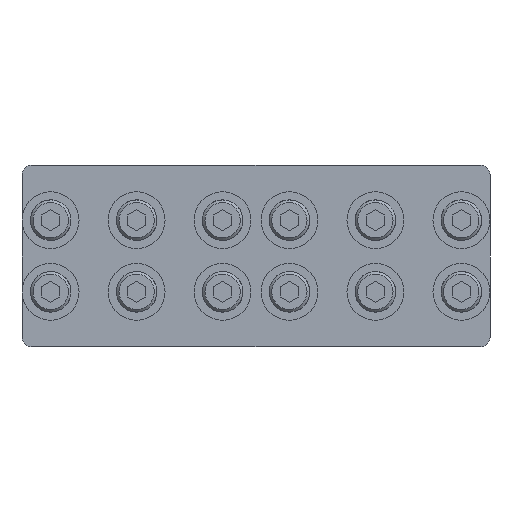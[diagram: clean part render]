
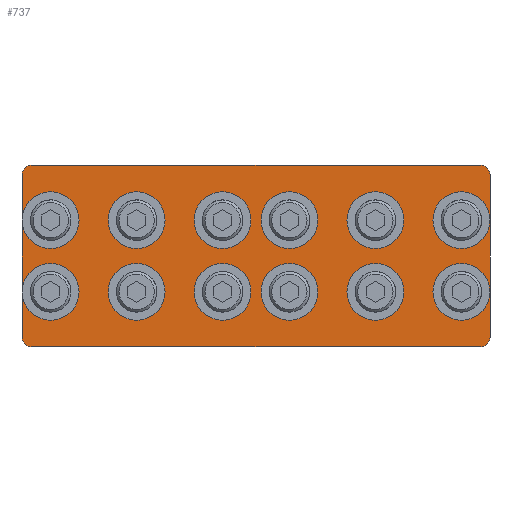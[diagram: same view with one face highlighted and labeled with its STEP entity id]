
A CAD part, left-side view. The second image highlights one B-rep face of the part: STEP entity #737.
In plain terms, the highlighted planar face has unit normal (-1, 0, 0) as drawn and (0, 0, 1) by its records, which use the part's own axes.
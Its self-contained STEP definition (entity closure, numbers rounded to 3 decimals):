
#737=ADVANCED_FACE('',(#1124,#1125,#1126,#1127,#1128,#1129,#1130,#1131,#1132,#1133,#1134,#1135,#1136),#1137,.T.);
#1124=FACE_BOUND('',#1418,.T.);
#1125=FACE_BOUND('',#1419,.T.);
#1126=FACE_BOUND('',#1420,.T.);
#1127=FACE_BOUND('',#1421,.T.);
#1128=FACE_BOUND('',#1422,.T.);
#1129=FACE_BOUND('',#1423,.T.);
#1130=FACE_OUTER_BOUND('',#1424,.T.);
#1131=FACE_BOUND('',#1425,.T.);
#1132=FACE_BOUND('',#1426,.T.);
#1133=FACE_BOUND('',#1427,.T.);
#1134=FACE_BOUND('',#1428,.T.);
#1135=FACE_BOUND('',#1429,.T.);
#1136=FACE_BOUND('',#1430,.T.);
#1137=PLANE('',#1431);
#1418=EDGE_LOOP('',(#1933));
#1419=EDGE_LOOP('',(#1934));
#1420=EDGE_LOOP('',(#1935));
#1421=EDGE_LOOP('',(#1936));
#1422=EDGE_LOOP('',(#1937));
#1423=EDGE_LOOP('',(#1938));
#1424=EDGE_LOOP('',(#1939,#1940,#1941,#1942,#1943,#1944,#1945,#1946));
#1425=EDGE_LOOP('',(#1947));
#1426=EDGE_LOOP('',(#1948));
#1427=EDGE_LOOP('',(#1949));
#1428=EDGE_LOOP('',(#1950));
#1429=EDGE_LOOP('',(#1951));
#1430=EDGE_LOOP('',(#1952));
#1431=AXIS2_PLACEMENT_3D('',#1953,#1954,#1955);
#1933=ORIENTED_EDGE('',*,*,#2286,.T.);
#1934=ORIENTED_EDGE('',*,*,#2192,.T.);
#1935=ORIENTED_EDGE('',*,*,#2173,.T.);
#1936=ORIENTED_EDGE('',*,*,#2302,.T.);
#1937=ORIENTED_EDGE('',*,*,#2160,.T.);
#1938=ORIENTED_EDGE('',*,*,#2294,.T.);
#1939=ORIENTED_EDGE('',*,*,#2189,.T.);
#1940=ORIENTED_EDGE('',*,*,#2263,.T.);
#1941=ORIENTED_EDGE('',*,*,#2165,.T.);
#1942=ORIENTED_EDGE('',*,*,#2200,.T.);
#1943=ORIENTED_EDGE('',*,*,#2204,.T.);
#1944=ORIENTED_EDGE('',*,*,#2292,.T.);
#1945=ORIENTED_EDGE('',*,*,#2300,.T.);
#1946=ORIENTED_EDGE('',*,*,#2279,.T.);
#1947=ORIENTED_EDGE('',*,*,#2296,.T.);
#1948=ORIENTED_EDGE('',*,*,#2284,.T.);
#1949=ORIENTED_EDGE('',*,*,#2206,.T.);
#1950=ORIENTED_EDGE('',*,*,#2216,.T.);
#1951=ORIENTED_EDGE('',*,*,#2213,.T.);
#1952=ORIENTED_EDGE('',*,*,#2253,.T.);
#1953=CARTESIAN_POINT('',(2.,2.,1.5));
#1954=DIRECTION('',(0.0,0.0,1.0));
#1955=DIRECTION('',(1.0,0.0,0.0));
#2160=EDGE_CURVE('',#2858,#2858,#2859,.T.);
#2165=EDGE_CURVE('',#2868,#2866,#2869,.T.);
#2173=EDGE_CURVE('',#2881,#2881,#2882,.T.);
#2189=EDGE_CURVE('',#2910,#2908,#2911,.T.);
#2192=EDGE_CURVE('',#2914,#2914,#2915,.T.);
#2200=EDGE_CURVE('',#2866,#2926,#2928,.T.);
#2204=EDGE_CURVE('',#2926,#2932,#2934,.T.);
#2206=EDGE_CURVE('',#2936,#2936,#2937,.T.);
#2213=EDGE_CURVE('',#2947,#2947,#2948,.T.);
#2216=EDGE_CURVE('',#2952,#2952,#2953,.T.);
#2253=EDGE_CURVE('',#3014,#3014,#3015,.T.);
#2263=EDGE_CURVE('',#2908,#2868,#3029,.T.);
#2279=EDGE_CURVE('',#3050,#2910,#3051,.T.);
#2284=EDGE_CURVE('',#3056,#3056,#3057,.T.);
#2286=EDGE_CURVE('',#3059,#3059,#3060,.T.);
#2292=EDGE_CURVE('',#2932,#3065,#3067,.T.);
#2294=EDGE_CURVE('',#3069,#3069,#3070,.T.);
#2296=EDGE_CURVE('',#3072,#3072,#3073,.T.);
#2300=EDGE_CURVE('',#3065,#3050,#3077,.T.);
#2302=EDGE_CURVE('',#3079,#3079,#3080,.T.);
#2858=VERTEX_POINT('',#3266);
#2859=CIRCLE('',#3267,2.6);
#2866=VERTEX_POINT('',#3274);
#2868=VERTEX_POINT('',#3277);
#2869=CIRCLE('',#3278,2.);
#2881=VERTEX_POINT('',#3295);
#2882=CIRCLE('',#3296,2.6);
#2908=VERTEX_POINT('',#3326);
#2910=VERTEX_POINT('',#3329);
#2911=CIRCLE('',#3330,2.);
#2914=VERTEX_POINT('',#3334);
#2915=CIRCLE('',#3335,2.6);
#2926=VERTEX_POINT('',#3347);
#2928=LINE('',#3350,#3351);
#2932=VERTEX_POINT('',#3355);
#2934=CIRCLE('',#3358,2.);
#2936=VERTEX_POINT('',#3360);
#2937=CIRCLE('',#3361,2.6);
#2947=VERTEX_POINT('',#3371);
#2948=CIRCLE('',#3372,2.6);
#2952=VERTEX_POINT('',#3376);
#2953=CIRCLE('',#3377,2.6);
#3014=VERTEX_POINT('',#3453);
#3015=CIRCLE('',#3454,2.6);
#3029=LINE('',#3472,#3473);
#3050=VERTEX_POINT('',#3502);
#3051=LINE('',#3503,#3504);
#3056=VERTEX_POINT('',#3511);
#3057=CIRCLE('',#3512,2.6);
#3059=VERTEX_POINT('',#3514);
#3060=CIRCLE('',#3515,2.6);
#3065=VERTEX_POINT('',#3521);
#3067=LINE('',#3524,#3525);
#3069=VERTEX_POINT('',#3527);
#3070=CIRCLE('',#3528,2.6);
#3072=VERTEX_POINT('',#3530);
#3073=CIRCLE('',#3531,2.6);
#3077=CIRCLE('',#3536,2.0);
#3079=VERTEX_POINT('',#3538);
#3080=CIRCLE('',#3539,2.6);
#3266=CARTESIAN_POINT('',(53.4,11.5,1.5));
#3267=AXIS2_PLACEMENT_3D('',#3839,#3840,#3841);
#3274=CARTESIAN_POINT('',(98.0,2.,1.5));
#3277=CARTESIAN_POINT('',(96.0,0.,1.5));
#3278=AXIS2_PLACEMENT_3D('',#3849,#3850,#3851);
#3295=CARTESIAN_POINT('',(21.4,11.5,1.5));
#3296=AXIS2_PLACEMENT_3D('',#3857,#3858,#3859);
#3326=CARTESIAN_POINT('',(2.0,0.,1.5));
#3329=CARTESIAN_POINT('',(0.0,2.,1.5));
#3330=AXIS2_PLACEMENT_3D('',#3883,#3884,#3885);
#3334=CARTESIAN_POINT('',(3.4,26.5,1.5));
#3335=AXIS2_PLACEMENT_3D('',#3887,#3888,#3889);
#3347=CARTESIAN_POINT('',(98.0,36.0,1.5));
#3350=CARTESIAN_POINT('',(98.0,2.,1.5));
#3351=VECTOR('',#3901,1.0);
#3355=CARTESIAN_POINT('',(96.0,38.0,1.5));
#3358=AXIS2_PLACEMENT_3D('',#3906,#3907,#3908);
#3360=CARTESIAN_POINT('',(39.4,26.5,1.5));
#3361=AXIS2_PLACEMENT_3D('',#3909,#3910,#3911);
#3371=CARTESIAN_POINT('',(89.4,26.5,1.5));
#3372=AXIS2_PLACEMENT_3D('',#3921,#3922,#3923);
#3376=CARTESIAN_POINT('',(39.4,11.5,1.5));
#3377=AXIS2_PLACEMENT_3D('',#3927,#3928,#3929);
#3453=CARTESIAN_POINT('',(89.4,11.5,1.5));
#3454=AXIS2_PLACEMENT_3D('',#3984,#3985,#3986);
#3472=CARTESIAN_POINT('',(2.0,0.,1.5));
#3473=VECTOR('',#3997,1.0);
#3502=CARTESIAN_POINT('',(0.0,36.0,1.5));
#3503=CARTESIAN_POINT('',(0.0,36.0,1.5));
#3504=VECTOR('',#4009,1.0);
#3511=CARTESIAN_POINT('',(53.4,26.5,1.5));
#3512=AXIS2_PLACEMENT_3D('',#4012,#4013,#4014);
#3514=CARTESIAN_POINT('',(3.4,11.5,1.5));
#3515=AXIS2_PLACEMENT_3D('',#4015,#4016,#4017);
#3521=CARTESIAN_POINT('',(2.0,38.0,1.5));
#3524=CARTESIAN_POINT('',(96.0,38.0,1.5));
#3525=VECTOR('',#4020,1.0);
#3527=CARTESIAN_POINT('',(71.4,11.5,1.5));
#3528=AXIS2_PLACEMENT_3D('',#4021,#4022,#4023);
#3530=CARTESIAN_POINT('',(71.4,26.5,1.5));
#3531=AXIS2_PLACEMENT_3D('',#4024,#4025,#4026);
#3536=AXIS2_PLACEMENT_3D('',#4028,#4029,#4030);
#3538=CARTESIAN_POINT('',(21.4,26.5,1.5));
#3539=AXIS2_PLACEMENT_3D('',#4031,#4032,#4033);
#3839=CARTESIAN_POINT('',(56.0,11.5,1.5));
#3840=DIRECTION('',(0.0,0.0,-1.0));
#3841=DIRECTION('',(-1.0,0.0,0.0));
#3849=CARTESIAN_POINT('',(96.0,2.,1.5));
#3850=DIRECTION('',(0.0,0.0,1.0));
#3851=DIRECTION('',(1.0,0.0,0.0));
#3857=CARTESIAN_POINT('',(24.0,11.5,1.5));
#3858=DIRECTION('',(0.0,0.0,-1.0));
#3859=DIRECTION('',(-1.0,0.0,0.0));
#3883=CARTESIAN_POINT('',(2.,2.,1.5));
#3884=DIRECTION('',(0.0,0.0,1.0));
#3885=DIRECTION('',(1.0,0.0,0.0));
#3887=CARTESIAN_POINT('',(6.0,26.5,1.5));
#3888=DIRECTION('',(0.0,0.0,-1.0));
#3889=DIRECTION('',(-1.0,0.0,0.0));
#3901=DIRECTION('',(0.,1.0,0.0));
#3906=CARTESIAN_POINT('',(96.0,36.0,1.5));
#3907=DIRECTION('',(0.0,0.0,1.0));
#3908=DIRECTION('',(1.0,0.0,0.0));
#3909=CARTESIAN_POINT('',(42.0,26.5,1.5));
#3910=DIRECTION('',(0.0,0.0,-1.0));
#3911=DIRECTION('',(-1.0,0.0,0.0));
#3921=CARTESIAN_POINT('',(92.0,26.5,1.5));
#3922=DIRECTION('',(0.0,0.0,-1.0));
#3923=DIRECTION('',(-1.0,0.0,0.0));
#3927=CARTESIAN_POINT('',(42.0,11.5,1.5));
#3928=DIRECTION('',(0.0,0.0,-1.0));
#3929=DIRECTION('',(-1.0,0.0,0.0));
#3984=CARTESIAN_POINT('',(92.0,11.5,1.5));
#3985=DIRECTION('',(0.0,0.0,-1.0));
#3986=DIRECTION('',(-1.0,0.0,0.0));
#3997=DIRECTION('',(1.0,0.0,0.0));
#4009=DIRECTION('',(0.0,-1.0,0.0));
#4012=CARTESIAN_POINT('',(56.0,26.5,1.5));
#4013=DIRECTION('',(0.0,0.0,-1.0));
#4014=DIRECTION('',(-1.0,0.0,0.0));
#4015=CARTESIAN_POINT('',(6.0,11.5,1.5));
#4016=DIRECTION('',(0.0,0.0,-1.0));
#4017=DIRECTION('',(-1.0,0.0,0.0));
#4020=DIRECTION('',(-1.0,0.0,0.0));
#4021=CARTESIAN_POINT('',(74.0,11.5,1.5));
#4022=DIRECTION('',(0.0,0.0,-1.0));
#4023=DIRECTION('',(-1.0,0.0,0.0));
#4024=CARTESIAN_POINT('',(74.0,26.5,1.5));
#4025=DIRECTION('',(0.0,0.0,-1.0));
#4026=DIRECTION('',(-1.0,0.0,0.0));
#4028=CARTESIAN_POINT('',(2.0,36.0,1.5));
#4029=DIRECTION('',(0.0,0.0,1.0));
#4030=DIRECTION('',(1.0,0.0,0.0));
#4031=CARTESIAN_POINT('',(24.0,26.5,1.5));
#4032=DIRECTION('',(0.0,0.0,-1.0));
#4033=DIRECTION('',(-1.0,0.0,0.0));
